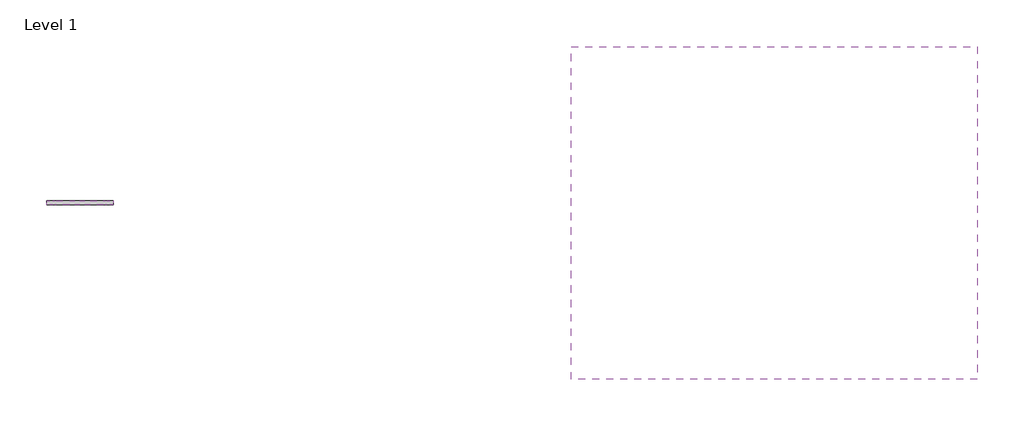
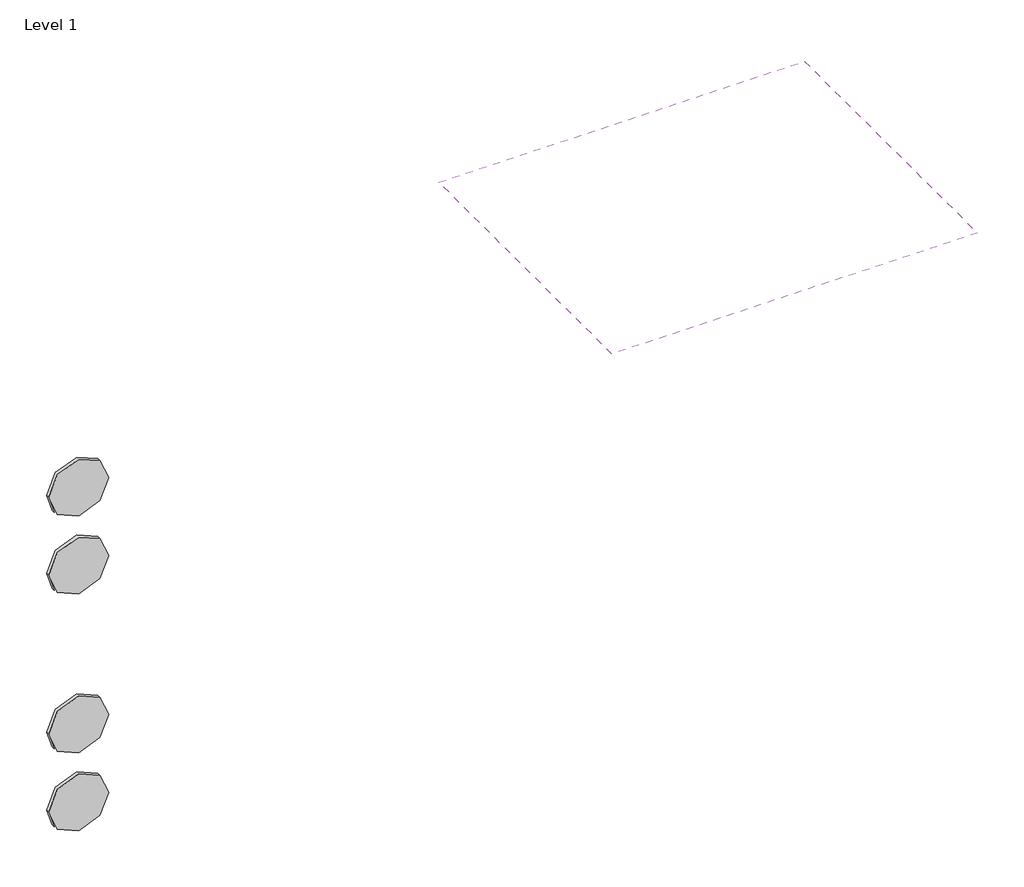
# One storey, incomplete: 4 proxies, 1 covering.
"""IFC4 building model written with IfcOpenShell, lengths in millimetres."""

from ifc_helpers import new_model, si_unit, frame, origin, place, context, project, spatial, polyline, outline, extrude, transform, mapped, element, save
from components import materialmodel_materialmodel_41144b76

model = new_model("IFC4")

# Units and contexts
model_context = context("Model", 3, world=origin())
ifc_project = project(units=[si_unit("LENGTHUNIT", "METRE", prefix="MILLI")], contexts=[model_context])

# Site, building, storey
site = spatial("IfcSite", under=ifc_project)
building = spatial("IfcBuilding", under=site)
storey = spatial("IfcBuildingStorey", under=building, Name="Level 1", Elevation=0.0)

# Proxies
placement = place(None, origin())
materialmodel_materialmodel_shape = materialmodel_materialmodel_41144b76(model_context)
element("IfcBuildingElementProxy", 1, Name="MaterialModel : MaterialModel", ObjectType="MaterialModel : MaterialModel", at=placement, inside=storey, context=model_context, shape_type="MappedRepresentation", body=[
    mapped(materialmodel_materialmodel_shape, transform((-15957.8072231, 6097.5863071, 816.7046249), x_axis=(1.0, 0.0, 0.0), y_axis=(0.0, 1.0, 0.0), z_axis=(0.0, 0.0, 1.0))),
])
element("IfcBuildingElementProxy", 2, Name="MaterialModel : MaterialModel", ObjectType="MaterialModel : MaterialModel", at=placement, inside=storey, context=model_context, shape_type="MappedRepresentation", body=[
    mapped(materialmodel_materialmodel_shape, transform((-15957.8072231, 6097.5863071, 541.7046249), x_axis=(1.0, 0.0, 0.0), y_axis=(0.0, 1.0, 0.0), z_axis=(0.0, 0.0, 1.0))),
])
element("IfcBuildingElementProxy", 3, Name="MaterialModel : MaterialModel", ObjectType="MaterialModel : MaterialModel", at=placement, inside=storey, context=model_context, shape_type="MappedRepresentation", body=[
    mapped(materialmodel_materialmodel_shape, transform((-15957.8072231, 6097.5863071, 1652.218674), x_axis=(1.0, 0.0, 0.0), y_axis=(0.0, 1.0, 0.0), z_axis=(0.0, 0.0, 1.0))),
])
element("IfcBuildingElementProxy", 4, Name="MaterialModel : MaterialModel", ObjectType="MaterialModel : MaterialModel", at=placement, inside=storey, context=model_context, shape_type="MappedRepresentation", body=[
    mapped(materialmodel_materialmodel_shape, transform((-15957.8072231, 6097.5863071, 1377.218674), x_axis=(1.0, 0.0, 0.0), y_axis=(0.0, 1.0, 0.0), z_axis=(0.0, 0.0, 1.0))),
])

# Covering
element("IfcCovering", 5, ObjectType="600 x 1200mm Grid", at=placement, inside=storey, context=model_context, shape_type="SweptSolid", body=[
    extrude(outline(polyline([(-13260.883584, 6561.1087432), (-13260.883584, 5561.1087432), (-14480.883584, 5561.1087432), (-14480.883584, 6561.1087432), (-13260.883584, 6561.1087432)])), frame((0.0, 0.0, 2000.0), z_axis=(0.0, 0.0, 1.0), x_axis=(1.0, 0.0, 0.0)), (0.0, 0.0, 1.0), 52.0),
])

save(model, "model.ifc")
